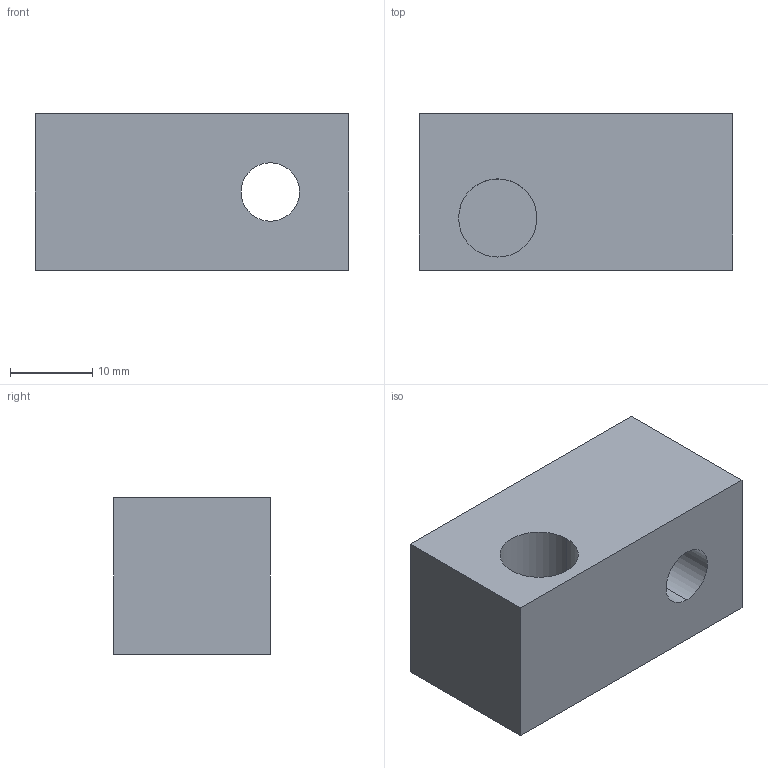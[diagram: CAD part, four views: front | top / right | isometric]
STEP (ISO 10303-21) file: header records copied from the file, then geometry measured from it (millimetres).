
FILE_DESCRIPTION (( 'STEP AP203' ), '1' );
FILE_NAME ('269-18-305.STEP', '2020-03-02T22:29:12', ( '' ), ( '' ), 'SwSTEP 2.0', 'SolidWorks 2017', '' );
FILE_SCHEMA (( 'CONFIG_CONTROL_DESIGN' ));
Length unit declared in the file: inch
Products named in the file (1): 269-18-305
Bounding box: 38.1 x 19.05 x 19.05 mm (x, y, z)
Volume: 12164.9 mm3; surface area: 4355.2 mm2
Topology: 1 solids, 1 shells, 11 faces, 24 edges, 16 vertices
Faces by surface type: plane 7, cylinder 4
Entity records: 389 total; most frequent: DIRECTION 56, CARTESIAN_POINT 52, ORIENTED_EDGE 48, EDGE_CURVE 24, AXIS2_PLACEMENT_3D 20, VECTOR 16, VERTEX_POINT 16, LINE 16
